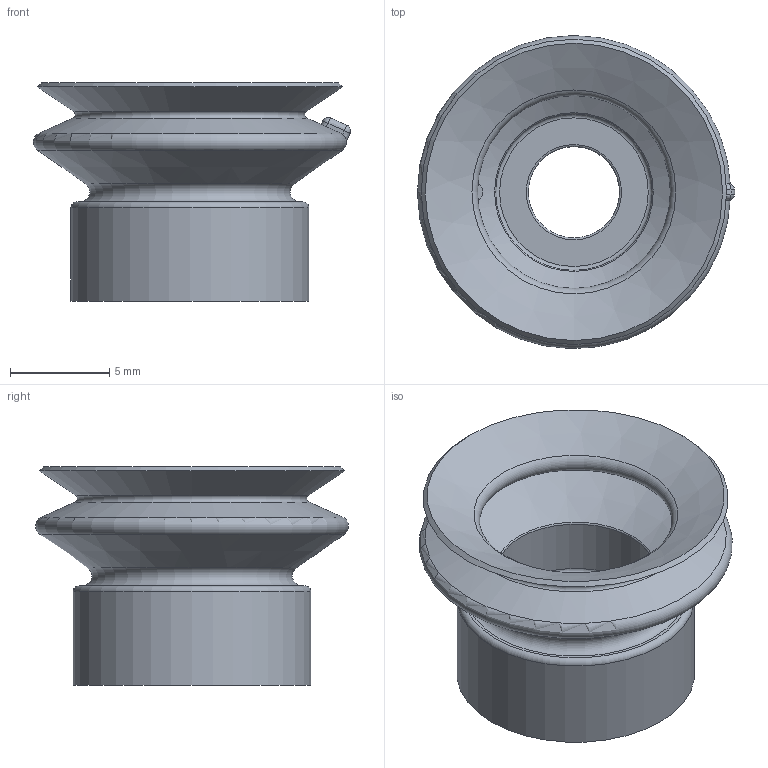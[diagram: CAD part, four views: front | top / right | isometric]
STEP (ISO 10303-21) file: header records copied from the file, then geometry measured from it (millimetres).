
FILE_DESCRIPTION(('STEP AP203'),'1');
FILE_NAME('_3D.stp','2024-06-11T23:56:45',(' '),(' '),'Spatial InterOp 3D',' ',' ');
FILE_SCHEMA(('CONFIG_CONTROL_DESIGN'));
Length unit declared in the file: millimetre
Products named in the file (1): 1
Bounding box: 15.99 x 15.78 x 11 mm (x, y, z)
Volume: 728.3 mm3; surface area: 1179.8 mm2
Topology: 1 solids, 1 shells, 44 faces, 103 edges, 61 vertices
Faces by surface type: torus 12, cone 10, plane 8, bspline 6, cylinder 4, sphere 4
Full cylindrical faces by diameter (mm): 4.6 x1, 7.9 x1, 12 x1
Entity records: 1186 total; most frequent: CARTESIAN_POINT 322, DIRECTION 176, ORIENTED_EDGE 140, AXIS2_PLACEMENT_3D 84, EDGE_CURVE 70, EDGE_LOOP 68, FACE_OUTER_BOUND 57, VERTEX_POINT 50
